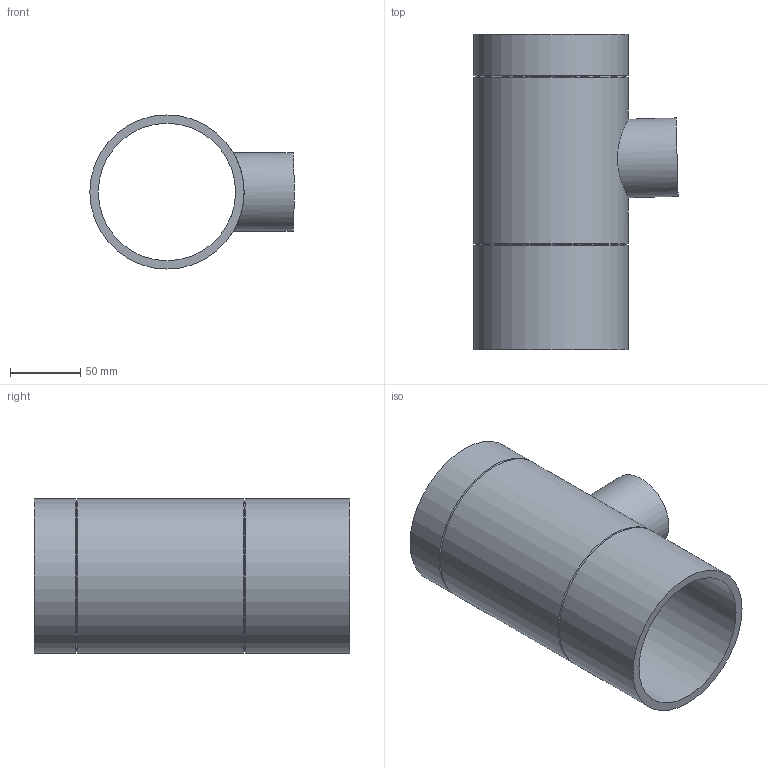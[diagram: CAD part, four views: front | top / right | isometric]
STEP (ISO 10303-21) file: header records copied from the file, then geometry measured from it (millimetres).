
FILE_DESCRIPTION(/* description */ (''),/* implementation_level */ '2;1');
FILE_NAME(/* name */ 'Z:\Geberit\Export\Export18\Abzweig Gerade_Ipart\stp\310058.stp',/* time_stamp */ '2014-08-26T21:49:22+02:00',/* author */ ('ML'),/* organization */ (''),/* preprocessor_version */ 'ST-DEVELOPER v15.2',/* originating_system */ 'Autodesk Inventor 2014',/* authorisation */ '');
FILE_SCHEMA (('AUTOMOTIVE_DESIGN { 1 0 10303 214 3 1 1 }'));
Length unit declared in the file: millimetre
Products named in the file (1): 310058
Bounding box: 145.7 x 225 x 110 mm (x, y, z)
Volume: 448846.9 mm3; surface area: 161510.5 mm2
Topology: 1 solids, 1 shells, 13 faces, 31 edges, 20 vertices
Faces by surface type: cylinder 6, cone 4, plane 3
Full cylindrical faces by diameter (mm): 49.6 x1, 56 x1, 98 x1, 110 x3
Entity records: 427 total; most frequent: CARTESIAN_POINT 172, DIRECTION 52, EDGE_LOOP 28, ORIENTED_EDGE 28, AXIS2_PLACEMENT_3D 26, FACE_BOUND 19, VERTEX_POINT 14, EDGE_CURVE 14
